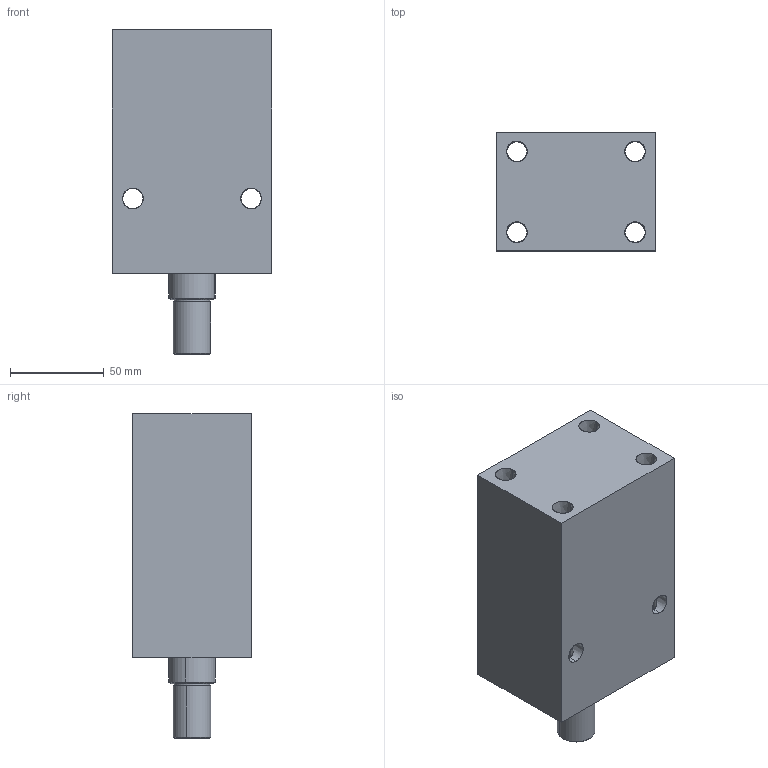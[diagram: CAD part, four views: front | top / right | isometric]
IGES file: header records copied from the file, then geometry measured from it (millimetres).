
Start section: SolidWorks IGES file using analytic representation for surfaces
Global section: file name: D:\karuppas\Clasp\3D model\Block cylinder B01C-Male thread - Copy\B01C-375M\Block cylinder_B01C-375M.IGS; native system: SolidWorks 2017; preprocessor: SolidWorks 2017; author: pc; date: 220709.234158; units: millimetre
Bounding box: 85 x 63 x 173 mm (x, y, z)
Surface area: 85760.4 mm2 (no closed solid volume)
Topology: 0 solids, 0 shells, 352 faces, 5292 edges, 5288 vertices
Faces by surface type: bspline 298, revolution 54
